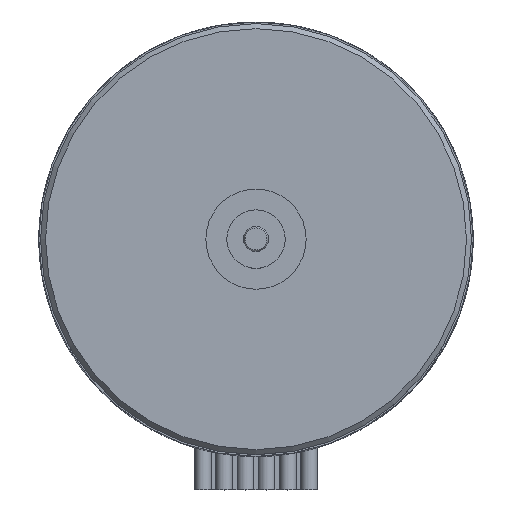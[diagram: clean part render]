
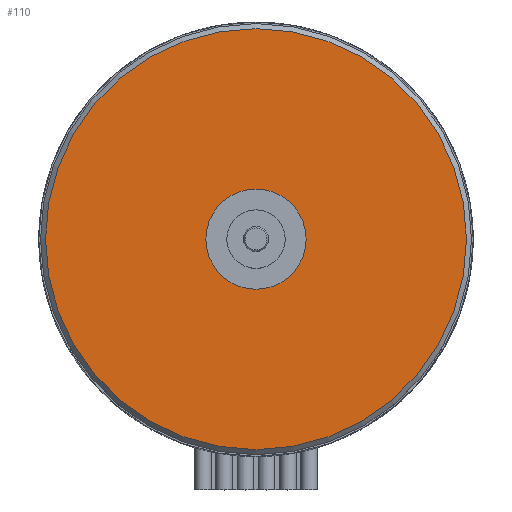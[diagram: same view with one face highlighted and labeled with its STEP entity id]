
A CAD part, top view. The second image highlights one B-rep face of the part: STEP entity #110.
In plain terms, the highlighted planar face has unit normal (0, 0, 1).
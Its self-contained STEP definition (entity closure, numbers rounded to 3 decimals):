
#42=FACE_BOUND('',#216,.T.);
#43=FACE_BOUND('',#217,.T.);
#73=PLANE('',#870);
#110=ADVANCED_FACE('',(#42,#43),#73,.T.);
#216=EDGE_LOOP('',(#413));
#217=EDGE_LOOP('',(#414));
#298=CIRCLE('',#868,12.6);
#299=CIRCLE('',#869,3.);
#413=ORIENTED_EDGE('',*,*,#682,.T.);
#414=ORIENTED_EDGE('',*,*,#683,.F.);
#590=VERTEX_POINT('',#1335);
#591=VERTEX_POINT('',#1337);
#682=EDGE_CURVE('',#590,#590,#298,.T.);
#683=EDGE_CURVE('',#591,#591,#299,.T.);
#868=AXIS2_PLACEMENT_3D('',#1334,#1064,#1065);
#869=AXIS2_PLACEMENT_3D('',#1336,#1066,#1067);
#870=AXIS2_PLACEMENT_3D('',#1338,#1068,#1069);
#1064=DIRECTION('',(0.,0.,1.));
#1065=DIRECTION('',(1.,0.,0.));
#1066=DIRECTION('',(0.,0.,1.));
#1067=DIRECTION('',(1.,0.,0.));
#1068=DIRECTION('',(0.,0.,1.));
#1069=DIRECTION('',(1.,0.,0.));
#1334=CARTESIAN_POINT('',(0.,0.,0.));
#1335=CARTESIAN_POINT('',(12.6,0.,0.));
#1336=CARTESIAN_POINT('',(0.,0.,0.));
#1337=CARTESIAN_POINT('',(3.,0.,0.));
#1338=CARTESIAN_POINT('',(0.,0.,0.));
